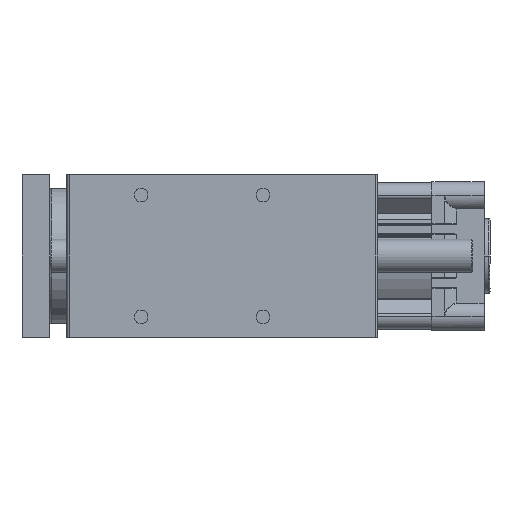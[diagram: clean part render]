
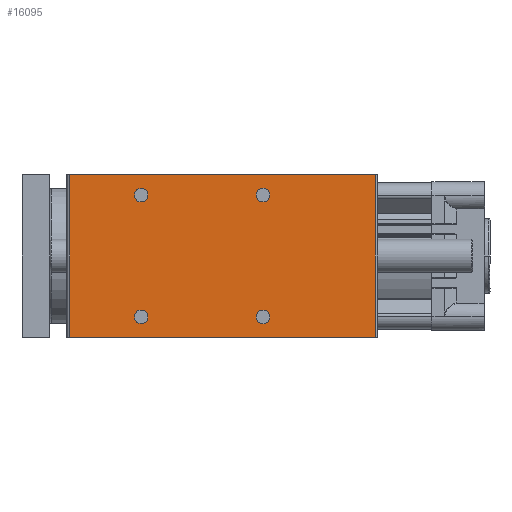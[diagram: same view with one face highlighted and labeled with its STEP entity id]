
A CAD part, left-side view. The second image highlights one B-rep face of the part: STEP entity #16095.
In plain terms, the highlighted planar face has unit normal (-1, 0, 0).
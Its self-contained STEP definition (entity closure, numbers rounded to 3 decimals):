
#98 = CARTESIAN_POINT ( 'NONE',  ( 0., -150., 15. ) ) ;
#893 = VERTEX_POINT ( 'NONE', #27364 ) ;
#1296 = VERTEX_POINT ( 'NONE', #14357 ) ;
#1471 = CARTESIAN_POINT ( 'NONE',  ( 0., -228., 120. ) ) ;
#1870 = DIRECTION ( 'NONE',  ( -1., 0., 0. ) ) ;
#2171 = CIRCLE ( 'NONE', #27225, 5. ) ;
#2365 = DIRECTION ( 'NONE',  ( 0., 1., 0. ) ) ;
#2368 = LINE ( 'NONE', #5763, #23891 ) ;
#2596 = ORIENTED_EDGE ( 'NONE', *, *, #22967, .F. ) ;
#3361 = CIRCLE ( 'NONE', #15983, 5. ) ;
#4221 = CARTESIAN_POINT ( 'NONE',  ( 0., -228., 0. ) ) ;
#4417 = ORIENTED_EDGE ( 'NONE', *, *, #9452, .F. ) ;
#4613 = VERTEX_POINT ( 'NONE', #48125 ) ;
#5637 = VERTEX_POINT ( 'NONE', #44515 ) ;
#5763 = CARTESIAN_POINT ( 'NONE',  ( 0., -2., 0. ) ) ;
#5782 = EDGE_CURVE ( 'NONE', #27734, #52240, #26362, .T. ) ;
#5947 = VECTOR ( 'NONE', #40118, 1000. ) ;
#7008 = ORIENTED_EDGE ( 'NONE', *, *, #5782, .F. ) ;
#7359 = EDGE_LOOP ( 'NONE', ( #7008, #36624 ) ) ;
#7644 = CARTESIAN_POINT ( 'NONE',  ( 0., -145., 105. ) ) ;
#9146 = VERTEX_POINT ( 'NONE', #14506 ) ;
#9355 = EDGE_CURVE ( 'NONE', #9146, #4613, #28739, .T. ) ;
#9452 = EDGE_CURVE ( 'NONE', #5637, #33944, #2171, .T. ) ;
#9917 = FACE_OUTER_BOUND ( 'NONE', #47389, .T. ) ;
#10740 = CARTESIAN_POINT ( 'NONE',  ( 0., -2., 120. ) ) ;
#11182 = FACE_BOUND ( 'NONE', #7359, .T. ) ;
#11739 = DIRECTION ( 'NONE',  ( 0., -1., 0. ) ) ;
#12180 = CARTESIAN_POINT ( 'NONE',  ( 0., -140., 105. ) ) ;
#12431 = VERTEX_POINT ( 'NONE', #26950 ) ;
#12746 = DIRECTION ( 'NONE',  ( -1., 0., 0. ) ) ;
#13089 = EDGE_CURVE ( 'NONE', #33944, #5637, #27241, .T. ) ;
#13664 = AXIS2_PLACEMENT_3D ( 'NONE', #36942, #12746, #40992 ) ;
#14269 = AXIS2_PLACEMENT_3D ( 'NONE', #21458, #17537, #45784 ) ;
#14357 = CARTESIAN_POINT ( 'NONE',  ( 0., -50., 105. ) ) ;
#14394 = AXIS2_PLACEMENT_3D ( 'NONE', #20498, #48725, #24567 ) ;
#14506 = CARTESIAN_POINT ( 'NONE',  ( 0., -2., 120. ) ) ;
#14625 = ORIENTED_EDGE ( 'NONE', *, *, #45372, .F. ) ;
#14962 = DIRECTION ( 'NONE',  ( 0., -1., 0. ) ) ;
#15983 = AXIS2_PLACEMENT_3D ( 'NONE', #7644, #35927, #11739 ) ;
#16095 = ADVANCED_FACE ( 'NONE', ( #11182, #42146, #31412, #20711, #9917 ), #33602, .F. ) ;
#16397 = VERTEX_POINT ( 'NONE', #4221 ) ;
#16405 = VERTEX_POINT ( 'NONE', #12180 ) ;
#16846 = CIRCLE ( 'NONE', #13664, 5. ) ;
#16857 = VECTOR ( 'NONE', #14962, 1000. ) ;
#17537 = DIRECTION ( 'NONE',  ( 1., 0., 0. ) ) ;
#18124 = EDGE_CURVE ( 'NONE', #16405, #40901, #16846, .T. ) ;
#20498 = CARTESIAN_POINT ( 'NONE',  ( 0., -55., 105. ) ) ;
#20534 = CARTESIAN_POINT ( 'NONE',  ( 0., -55., 15. ) ) ;
#20711 = FACE_BOUND ( 'NONE', #35451, .T. ) ;
#20907 = CARTESIAN_POINT ( 'NONE',  ( 0., -55., 15. ) ) ;
#21458 = CARTESIAN_POINT ( 'NONE',  ( 0., -2., 120. ) ) ;
#22241 = EDGE_CURVE ( 'NONE', #52240, #27734, #35924, .T. ) ;
#22426 = CARTESIAN_POINT ( 'NONE',  ( 0., -140., 15. ) ) ;
#22967 = EDGE_CURVE ( 'NONE', #893, #16397, #46600, .T. ) ;
#23852 = ORIENTED_EDGE ( 'NONE', *, *, #9355, .T. ) ;
#23855 = DIRECTION ( 'NONE',  ( -1., 0., 0. ) ) ;
#23891 = VECTOR ( 'NONE', #42150, 1000. ) ;
#24295 = AXIS2_PLACEMENT_3D ( 'NONE', #20534, #48755, #24603 ) ;
#24567 = DIRECTION ( 'NONE',  ( 0., 1., 0. ) ) ;
#24569 = ORIENTED_EDGE ( 'NONE', *, *, #13089, .F. ) ;
#24603 = DIRECTION ( 'NONE',  ( 0., -1., 0. ) ) ;
#24971 = DIRECTION ( 'NONE',  ( 0., -1., 0. ) ) ;
#25656 = ORIENTED_EDGE ( 'NONE', *, *, #28504, .F. ) ;
#26108 = CARTESIAN_POINT ( 'NONE',  ( 0., -55., 105. ) ) ;
#26362 = CIRCLE ( 'NONE', #38254, 5. ) ;
#26584 = DIRECTION ( 'NONE',  ( -1., 0., 0. ) ) ;
#26903 = ORIENTED_EDGE ( 'NONE', *, *, #41952, .F. ) ;
#26950 = CARTESIAN_POINT ( 'NONE',  ( 0., -60., 105. ) ) ;
#27225 = AXIS2_PLACEMENT_3D ( 'NONE', #20907, #49130, #24971 ) ;
#27241 = CIRCLE ( 'NONE', #24295, 5. ) ;
#27364 = CARTESIAN_POINT ( 'NONE',  ( 0., -228., 120. ) ) ;
#27734 = VERTEX_POINT ( 'NONE', #98 ) ;
#27956 = CARTESIAN_POINT ( 'NONE',  ( 0., -2., 120. ) ) ;
#28504 = EDGE_CURVE ( 'NONE', #40901, #16405, #3361, .T. ) ;
#28739 = LINE ( 'NONE', #27956, #5947 ) ;
#30133 = DIRECTION ( 'NONE',  ( 0., 1., 0. ) ) ;
#31412 = FACE_BOUND ( 'NONE', #40315, .T. ) ;
#33602 = PLANE ( 'NONE',  #14269 ) ;
#33944 = VERTEX_POINT ( 'NONE', #36548 ) ;
#34095 = AXIS2_PLACEMENT_3D ( 'NONE', #47995, #23855, #52089 ) ;
#35451 = EDGE_LOOP ( 'NONE', ( #36342, #14625 ) ) ;
#35869 = VECTOR ( 'NONE', #50040, 1000. ) ;
#35924 = CIRCLE ( 'NONE', #34095, 5. ) ;
#35927 = DIRECTION ( 'NONE',  ( -1., 0., 0. ) ) ;
#35990 = ORIENTED_EDGE ( 'NONE', *, *, #38723, .T. ) ;
#36342 = ORIENTED_EDGE ( 'NONE', *, *, #48220, .F. ) ;
#36548 = CARTESIAN_POINT ( 'NONE',  ( 0., -50., 15. ) ) ;
#36624 = ORIENTED_EDGE ( 'NONE', *, *, #22241, .F. ) ;
#36942 = CARTESIAN_POINT ( 'NONE',  ( 0., -145., 105. ) ) ;
#38254 = AXIS2_PLACEMENT_3D ( 'NONE', #50751, #26584, #2365 ) ;
#38322 = LINE ( 'NONE', #10740, #16857 ) ;
#38723 = EDGE_CURVE ( 'NONE', #4613, #16397, #2368, .T. ) ;
#40118 = DIRECTION ( 'NONE',  ( 0., 0., -1. ) ) ;
#40315 = EDGE_LOOP ( 'NONE', ( #25656, #45859 ) ) ;
#40901 = VERTEX_POINT ( 'NONE', #50375 ) ;
#40992 = DIRECTION ( 'NONE',  ( 0., -1., 0. ) ) ;
#41952 = EDGE_CURVE ( 'NONE', #9146, #893, #38322, .T. ) ;
#42146 = FACE_BOUND ( 'NONE', #46386, .T. ) ;
#42150 = DIRECTION ( 'NONE',  ( 0., -1., 0. ) ) ;
#42418 = AXIS2_PLACEMENT_3D ( 'NONE', #26108, #1870, #30133 ) ;
#44515 = CARTESIAN_POINT ( 'NONE',  ( 0., -60., 15. ) ) ;
#45372 = EDGE_CURVE ( 'NONE', #1296, #12431, #48199, .T. ) ;
#45784 = DIRECTION ( 'NONE',  ( 0., 1., 0. ) ) ;
#45859 = ORIENTED_EDGE ( 'NONE', *, *, #18124, .F. ) ;
#46386 = EDGE_LOOP ( 'NONE', ( #4417, #24569 ) ) ;
#46600 = LINE ( 'NONE', #1471, #35869 ) ;
#47389 = EDGE_LOOP ( 'NONE', ( #35990, #2596, #26903, #23852 ) ) ;
#47995 = CARTESIAN_POINT ( 'NONE',  ( 0., -145., 15. ) ) ;
#48125 = CARTESIAN_POINT ( 'NONE',  ( 0., -2., 0. ) ) ;
#48199 = CIRCLE ( 'NONE', #42418, 5. ) ;
#48220 = EDGE_CURVE ( 'NONE', #12431, #1296, #50545, .T. ) ;
#48725 = DIRECTION ( 'NONE',  ( -1., 0., 0. ) ) ;
#48755 = DIRECTION ( 'NONE',  ( -1., 0., 0. ) ) ;
#49130 = DIRECTION ( 'NONE',  ( -1., 0., 0. ) ) ;
#50040 = DIRECTION ( 'NONE',  ( 0., 0., -1. ) ) ;
#50375 = CARTESIAN_POINT ( 'NONE',  ( 0., -150., 105. ) ) ;
#50545 = CIRCLE ( 'NONE', #14394, 5. ) ;
#50751 = CARTESIAN_POINT ( 'NONE',  ( 0., -145., 15. ) ) ;
#52089 = DIRECTION ( 'NONE',  ( 0., 1., 0. ) ) ;
#52240 = VERTEX_POINT ( 'NONE', #22426 ) ;
